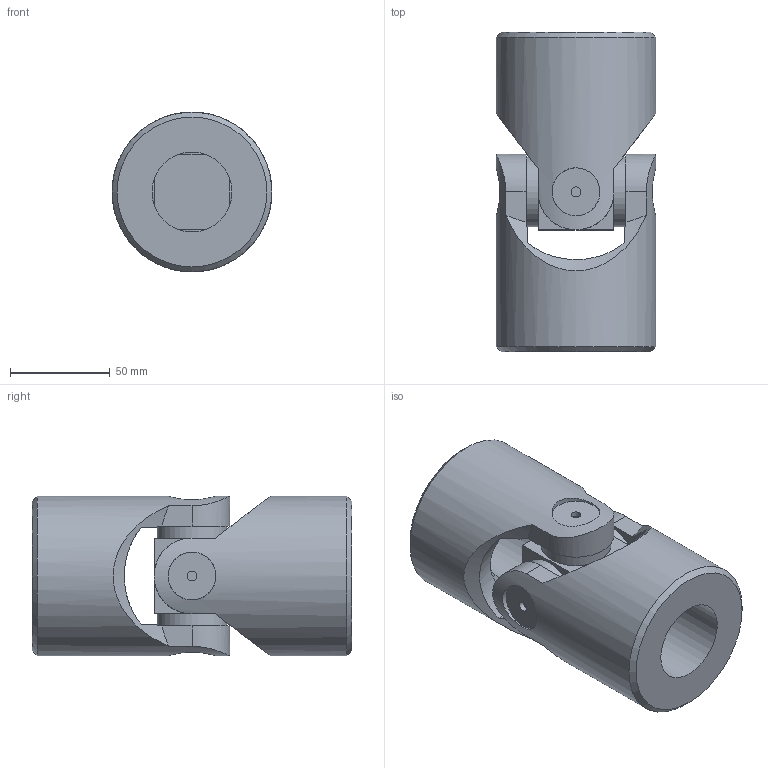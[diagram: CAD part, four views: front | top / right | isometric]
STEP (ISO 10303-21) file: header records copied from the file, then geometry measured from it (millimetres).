
FILE_DESCRIPTION(/* description */ (''),/* implementation_level */ '2;1');
FILE_NAME(/* name */ '\\SRV2016\Societa\Stefano\Disegni 3D\Dis. Clienti\0000Catalogo 3D\01Singoli G-GB\8G-00_SG0S4000.stp',/* time_stamp */ '2021-11-10T13:40:16+01:00',/* author */ ('acquisti'),/* organization */ (''),/* preprocessor_version */ 'ST-DEVELOPER v15.6',/* originating_system */ 'Autodesk Inventor 2015',/* authorisation */ '');
FILE_SCHEMA (('AUTOMOTIVE_DESIGN { 1 0 10303 214 3 1 1 }'));
Length unit declared in the file: millimetre
Products named in the file (3): 8G SFE; 8G MOS; Assieme1
Assembly tree (3 placements, depth 2):
  Assieme1
    8G SFE
    8G MOS  x2
Bounding box: 80 x 160 x 80 mm (x, y, z)
Volume: 527146.1 mm3; surface area: 80386.1 mm2
Topology: 3 solids, 3 shells, 72 faces, 170 edges, 114 vertices
Faces by surface type: plane 36, cylinder 22, cone 12, torus 2
Full cylindrical faces by diameter (mm): 5 x4, 24 x4, 35 x4, 40 x2, 47 x2, 80 x2
Entity records: 1439 total; most frequent: CARTESIAN_POINT 488, DIRECTION 184, ORIENTED_EDGE 164, EDGE_CURVE 82, AXIS2_PLACEMENT_3D 80, EDGE_LOOP 66, VERTEX_POINT 64, FACE_OUTER_BOUND 43
